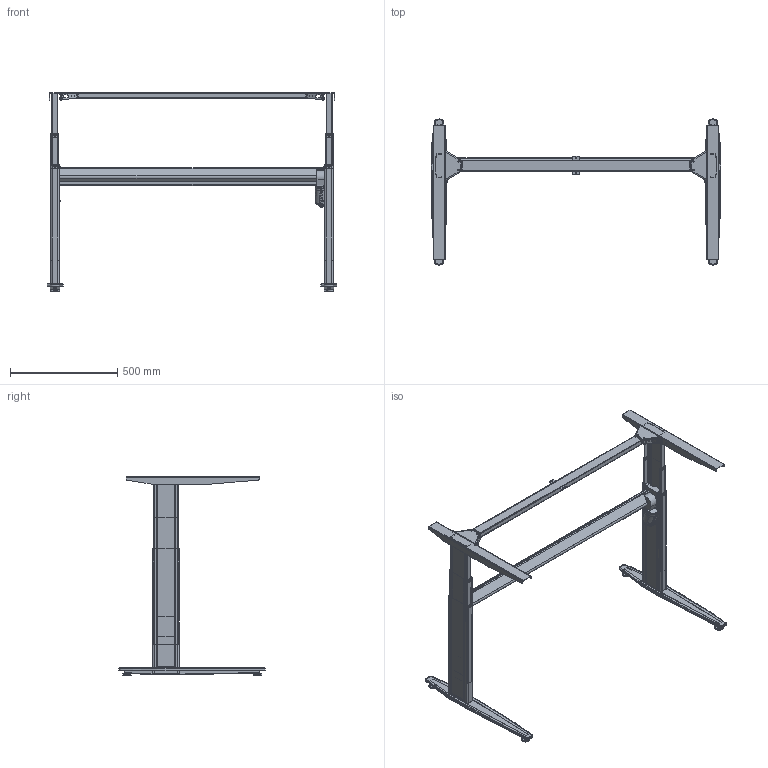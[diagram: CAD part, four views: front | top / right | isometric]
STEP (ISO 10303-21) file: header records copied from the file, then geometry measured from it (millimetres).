
FILE_DESCRIPTION (( 'STEP AP203' ), '1' );
FILE_NAME ('Tech-draw_501-25_XX133.STEP', '2019-12-17T15:33:28', ( '' ), ( '' ), 'SwSTEP 2.0', 'SolidWorks 2018', '' );
FILE_SCHEMA (( 'CONFIG_CONTROL_DESIGN' ));
Length unit declared in the file: millimetre
Products named in the file (50): 148490_silver1; 150240_501-25 XS133; 337750; 148560_silver; 351040_shell view; 329590; 323080; 148510_silver; 350930_shell view; 350960_shell view; 350980; 329570_silver; 346790; 351030; 148540_silver1; 331790_silver2; 346820; 331230; 148610_silver; 148620_silver; 148500_silver; 350970_shell view; 329580_133; 346840; Tech-draw_501-25_XX133; 352610; 346850; 126350_silver2; 346830; 148530_silver; 351120; 328460; 142850; 148630_silver; 324520_silver; 350940_shell view; 124700_silver2; 351170_shell view; 351090; 350950_silver1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
Assembly tree (88 placements, depth 6):
  Tech-draw_501-25_XX133
    150240_501-25 XS133
      331790_silver2
      124700_silver2
        126350_silver2
          329580_133
          329590  x2
          331230  x2
        329570_silver  x2
        304650  x2
        337750
      148530_silver
        148500_silver
          148490_silver1
            350930_shell view
            323080
            350940_shell view
            350990
          324520_silver  x2
          350950_silver1
          328450  x2
        148510_silver
          350960_shell view
          351160_shell view
        148610_silver
          148580_silver
            351090
            351120
        304650  x10
        148600_shell view
          142850
            346820  x2
            346850
            346810  x2
            346830
            346840
          346790
          352610
        328460  x2
      148560_silver
        148550_silver
          148540_silver1
            350970_shell view
            323080
            350940_shell view
            350980
          324520_silver  x2
          350950_silver1
          328450  x2
        148570_silver
          350960_shell view
          351170_shell view
        304650  x10
        148630_silver
          148620_silver
            351040_shell view
            351030
          351080
        328460  x2
Bounding box: 1349.5 x 679.93 x 924.4 mm (x, y, z)
Volume: 3069071 mm3; surface area: 3398221.6 mm2
Topology: 71 solids, 71 shells, 6230 faces, 15406 edges, 9487 vertices
Faces by surface type: plane 3448, cylinder 1644, bspline 771, torus 255, sphere 96, cone 16
Full cylindrical faces by diameter (mm): 2.8 x4, 3 x6, 3.1 x2, 3.3 x8, 4 x2, 5 x14, 6 x44, 6.2 x2, 6.5 x12, 8 x13, 8.1 x2, 13 x1, 14 x4, 14.5 x1, 15 x4, 16 x1, 18.4 x1, 19 x1, 19.8 x1, 24.2 x1, 29.2 x1, 37.6 x8, 60 x1
Entity records: 107543 total; most frequent: CARTESIAN_POINT 37107, ORIENTED_EDGE 13366, DIRECTION 12983, EDGE_CURVE 6683, AXIS2_PLACEMENT_3D 4348, LINE 4287, VECTOR 4287, VERTEX_POINT 4209
